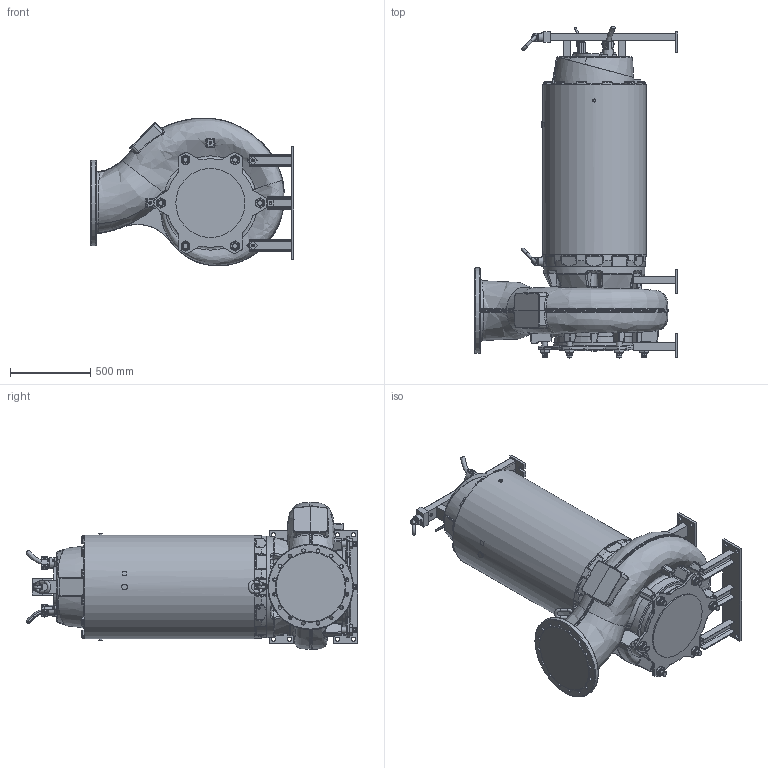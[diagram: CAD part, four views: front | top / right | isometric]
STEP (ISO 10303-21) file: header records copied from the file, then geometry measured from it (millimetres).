
FILE_DESCRIPTION (( 'STEP AP203' ), '1' );
FILE_NAME ('PE6_XFP356M-CB3_DRY HA_A.STEP', '2022-04-01T08:09:28', ( '' ), ( '' ), 'SwSTEP 2.0', 'SolidWorks 2017', '' );
FILE_SCHEMA (( 'CONFIG_CONTROL_DESIGN' ));
Length unit declared in the file: millimetre
Products named in the file (2): PE6_XFP356M-CB3_DRY HA_A
Bounding box: 1271 x 2068.08 x 922.13 mm (x, y, z)
Volume: 671361418 mm3; surface area: 8440809.7 mm2
Topology: 21 solids, 59 shells, 3373 faces, 8234 edges, 4969 vertices
Faces by surface type: plane 1069, bspline 847, cylinder 634, cone 418, torus 284, sphere 121
Full cylindrical faces by diameter (mm): 5 x2, 6 x10, 7 x4, 7.5 x2, 10 x12, 11 x6, 12 x2, 14 x8, 16 x14, 17.5 x18, 18 x6, 19 x9, 19.05 x1, 20 x6, 22 x10, 23 x16, 24 x3, 25 x3, 26 x8, 26.5 x1, 31.67 x2, 33 x1, 36 x17, 40 x2, 48 x18, 58 x2, 250 x1, 430 x2, 492 x1, 644 x1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
Entity records: 165575 total; most frequent: CARTESIAN_POINT 95916, ORIENTED_EDGE 15214, DIRECTION 12794, EDGE_CURVE 7607, AXIS2_PLACEMENT_3D 5179, VERTEX_POINT 4771, EDGE_LOOP 3950, FACE_OUTER_BOUND 3604
